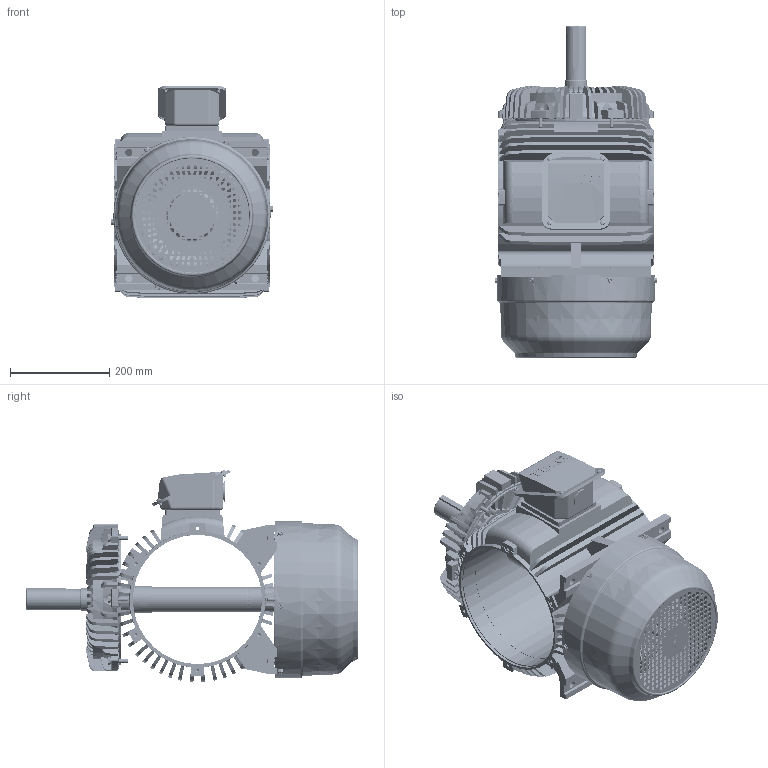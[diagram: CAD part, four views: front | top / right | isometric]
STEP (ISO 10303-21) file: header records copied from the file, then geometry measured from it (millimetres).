
FILE_DESCRIPTION(('CATIA V5 STEP Exchange'),'2;1');
FILE_NAME('D:\AEHF-3D\31043A162--AEHF-160L.stp','2016-11-22T02:31:08+00:00',('none'),('none'),'Version 5-6 Release 2012','CATIA V5 STEP AP203','none');
FILE_SCHEMA(('CONFIG_CONTROL_DESIGN'));
Length unit declared in the file: millimetre
Products named in the file (1): 31043A162--AEHF-160L
Bounding box: 328.06 x 668 x 428.03 mm (x, y, z)
Volume: 9599204.7 mm3; surface area: 2598675 mm2
Topology: 1 solids, 9 shells, 7044 faces, 20369 edges, 13389 vertices
Faces by surface type: plane 3320, cylinder 1787, torus 1019, cone 782, bspline 98, sphere 34, extrusion 4
Entity records: 240076 total; most frequent: CARTESIAN_POINT 76753, ORIENTED_EDGE 40630, DIRECTION 22962, EDGE_CURVE 20315, VERTEX_POINT 13384, AXIS2_PLACEMENT_3D 10307, VECTOR 8113, LINE 8109
